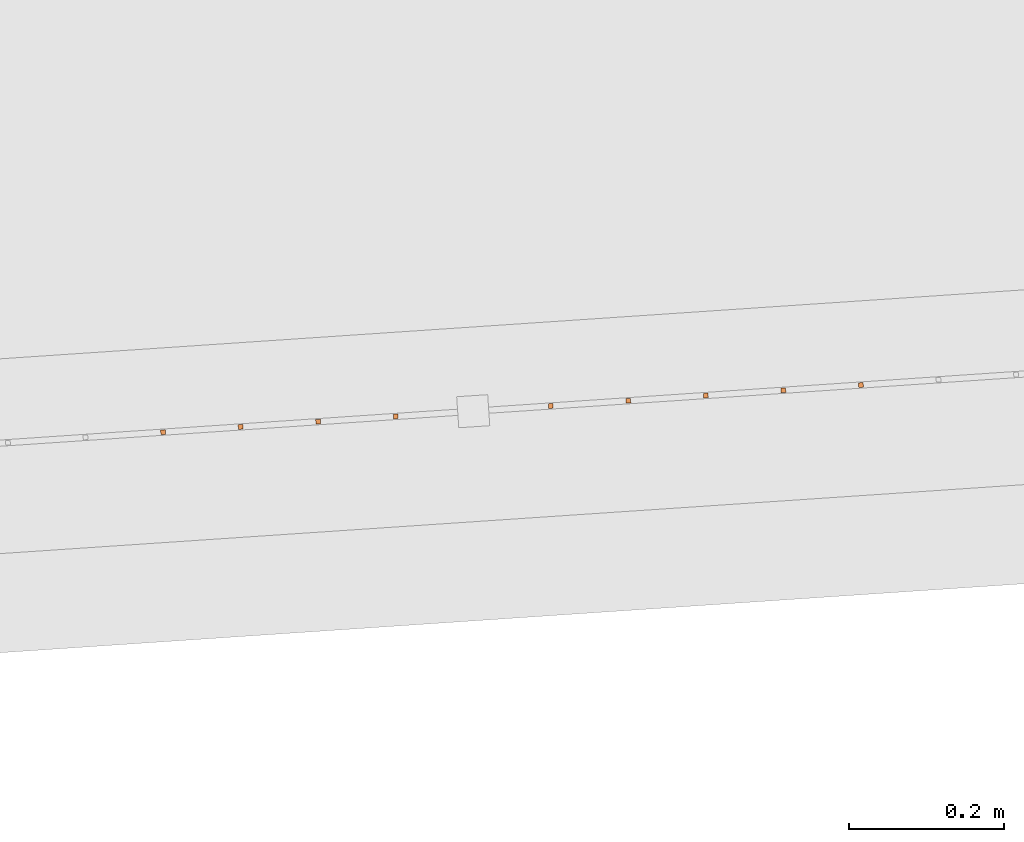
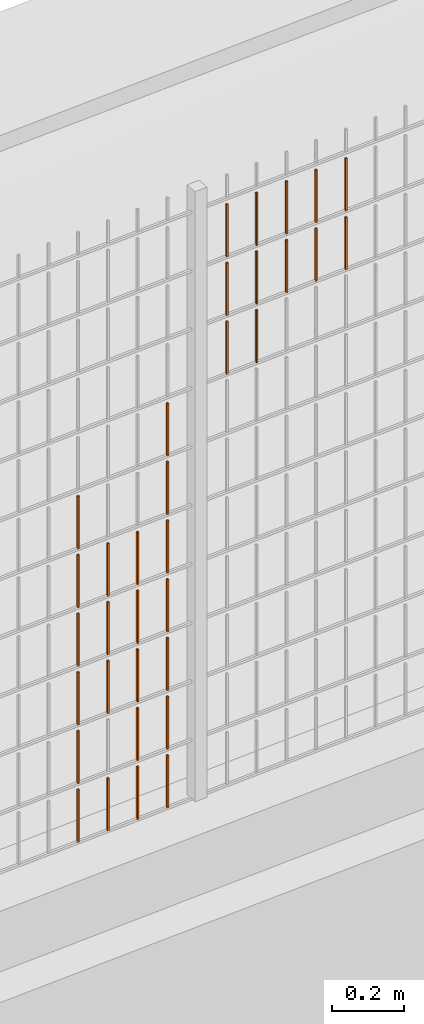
# One storey, part 284 of 1809: 34 proxies, 1 element without a shape of its own.
"""IFC2X3 building model written with IfcOpenShell, lengths in millimetres."""

from ifc_helpers import new_model, entity, si_unit, converted_unit, derived_unit, money_unit, direction, frame, origin_with_axes, place, context, subcontext, project, spatial, faceted_brep, source, transform, mapped, material, type_object, element, aggregate, save


model = new_model("IFC2X3")

# Units and contexts
model_context = context("Model", 3, precision=0.01, world=origin_with_axes(), true_north=direction((0.0, 1.0)))
body_context = subcontext(model_context, "Body", "Model", "MODEL_VIEW")
ifc_project = project(units=[si_unit("LENGTHUNIT", "METRE", prefix="MILLI"), si_unit("AREAUNIT", "SQUARE_METRE"), si_unit("VOLUMEUNIT", "CUBIC_METRE"), converted_unit("PLANEANGLEUNIT", "DEGREE", entity("IfcPlaneAngleMeasure", 0.0174532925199), si_unit("PLANEANGLEUNIT", "RADIAN"), dimensions=[0, 0, 0, 0, 0, 0, 0]), si_unit("SOLIDANGLEUNIT", "STERADIAN"), money_unit("EUR"), converted_unit("TIMEUNIT", "Year", entity("IfcTimeMeasure", 31556926.0), si_unit("TIMEUNIT", "SECOND"), dimensions=[0, 0, 1, 0, 0, 0, 0]), si_unit("MASSUNIT", "GRAM", prefix="KILO"), si_unit("THERMODYNAMICTEMPERATUREUNIT", "DEGREE_CELSIUS"), si_unit("LUMINOUSINTENSITYUNIT", "LUMEN"), si_unit("ENERGYUNIT", "JOULE", prefix="MEGA"), derived_unit("THERMALCONDUCTANCEUNIT", [(si_unit("POWERUNIT", "WATT"), 1), (si_unit("LENGTHUNIT", "METRE"), -1), (si_unit("THERMODYNAMICTEMPERATUREUNIT", "KELVIN"), -1)]), derived_unit("SPECIFICHEATCAPACITYUNIT", [(si_unit("ENERGYUNIT", "JOULE"), 1), (si_unit("MASSUNIT", "GRAM", prefix="KILO"), -1), (si_unit("THERMODYNAMICTEMPERATUREUNIT", "KELVIN"), -1)]), derived_unit("MASSDENSITYUNIT", [(si_unit("MASSUNIT", "GRAM", prefix="KILO"), 1), (si_unit("VOLUMEUNIT", "CUBIC_METRE"), -1)])], contexts=[model_context])

# Site, building, storey
site_placement = place(None, origin_with_axes())
site = spatial("IfcSite", under=ifc_project, at=site_placement, Name="Politse- ja Piirivalveameti ning Päästeameti ühishoone", CompositionType="ELEMENT")
building_placement = place(site_placement, origin_with_axes())
building = spatial("IfcBuilding", under=site, at=building_placement, Name="Politse- ja Piirivalveameti ning Päästeameti ühishoone", CompositionType="ELEMENT")
storey_placement = place(building_placement, origin_with_axes())
storey = spatial("IfcBuildingStorey", under=building, at=storey_placement, Name="Esimene korrus", CompositionType="ELEMENT", Elevation=0.0)

# Proxies
building_element_proxy_type_1 = type_object("IfcBuildingElementProxyType", Name="Railing Type", PredefinedType="NOTDEFINED")
proxy_1_placement = place(storey_placement, frame((89252.001212, -29183.4766571, 203.661247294), z_axis=(0.0, 0.0, 1.0), x_axis=(1.0, 0.0, 0.0)))
proxy_1 = element("IfcBuildingElementProxy", 1, at=proxy_1_placement, inside=storey, type_object=building_element_proxy_type_1, Name="PIIRDEAED")
ifc_material = material(Name="ET-03_Raud")
building_element_proxy_type_2 = type_object("IfcBuildingElementProxyType", Name="IfcBuildingElementProxy", PredefinedType="NOTDEFINED")
shared_shape_1 = source(origin_with_axes(), body_context, "Body", "Brep", [
    faceted_brep([(3.0, 3.0, -0.000752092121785), (-3.0, 3.0, -0.000752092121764), (-3.0, 3.0, 179.99926046), (3.0, 3.0, 179.99926046), (3.0, -3.0, 0.000752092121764), (-3.0, -3.0, 0.000752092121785), (-3.0, -3.0, 180.000764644), (3.0, -3.0, 180.000764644)], [[[0, 1, 2, 3]], [[0, 4, 5, 1]], [[1, 5, 6, 2]], [[3, 2, 6, 7]], [[4, 0, 3, 7]], [[5, 4, 7, 6]]]),
])
proxy_2_placement = place(proxy_1_placement, frame((-50012.7264599, -20675.9456927, 14.667756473), z_axis=(0.0, 0.0, 1.0), x_axis=(1.0, 0.0, 0.0)))
proxy_2 = element("IfcBuildingElementProxy", 2, at=proxy_2_placement, type_object=building_element_proxy_type_2, material=ifc_material, Name="BALUSTER - 001", context=body_context, shape_type="MappedRepresentation", body=[
    mapped(shared_shape_1, transform((0.0, 0.0, 0.0), x_axis=(-0.0673926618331, 0.997726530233, 0.0), y_axis=(-0.997726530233, -0.0673926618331, 0.0), z_axis=(0.0, 0.0, 1.0))),
])
shared_shape_2 = source(origin_with_axes(), body_context, "Body", "Brep", [
    faceted_brep([(3.0, 3.0, -0.000752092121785), (-3.0, 3.0, -0.000752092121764), (-3.0, 3.0, 179.99926046), (3.0, 3.0, 179.99926046), (3.0, -3.0, 0.000752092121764), (-3.0, -3.0, 0.000752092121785), (-3.0, -3.0, 180.000764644), (3.0, -3.0, 180.000764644)], [[[0, 1, 2, 3]], [[0, 4, 5, 1]], [[1, 5, 6, 2]], [[3, 2, 6, 7]], [[4, 0, 3, 7]], [[5, 4, 7, 6]]]),
])
proxy_3_placement = place(proxy_1_placement, frame((-50012.7264599, -20675.9456927, 614.667756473), z_axis=(0.0, 0.0, 1.0), x_axis=(1.0, 0.0, 0.0)))
proxy_3 = element("IfcBuildingElementProxy", 3, at=proxy_3_placement, type_object=building_element_proxy_type_2, material=ifc_material, Name="BALUSTER - 001", context=body_context, shape_type="MappedRepresentation", body=[
    mapped(shared_shape_2, transform((0.0, 0.0, 0.0), x_axis=(-0.0673926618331, 0.997726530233, 0.0), y_axis=(-0.997726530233, -0.0673926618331, 0.0), z_axis=(0.0, 0.0, 1.0))),
])
shared_shape_3 = source(origin_with_axes(), body_context, "Body", "Brep", [
    faceted_brep([(3.0, 3.0, -0.000752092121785), (-3.0, 3.0, -0.000752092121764), (-3.0, 3.0, 179.99926046), (3.0, 3.0, 179.99926046), (3.0, -3.0, 0.000752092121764), (-3.0, -3.0, 0.000752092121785), (-3.0, -3.0, 180.000764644), (3.0, -3.0, 180.000764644)], [[[0, 1, 2, 3]], [[0, 4, 5, 1]], [[1, 5, 6, 2]], [[3, 2, 6, 7]], [[4, 0, 3, 7]], [[5, 4, 7, 6]]]),
])
proxy_4_placement = place(proxy_1_placement, frame((-50012.7264599, -20675.9456927, 814.667756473), z_axis=(0.0, 0.0, 1.0), x_axis=(1.0, 0.0, 0.0)))
proxy_4 = element("IfcBuildingElementProxy", 4, at=proxy_4_placement, type_object=building_element_proxy_type_2, material=ifc_material, Name="BALUSTER - 001", context=body_context, shape_type="MappedRepresentation", body=[
    mapped(shared_shape_3, transform((0.0, 0.0, 0.0), x_axis=(-0.0673926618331, 0.997726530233, 0.0), y_axis=(-0.997726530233, -0.0673926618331, 0.0), z_axis=(0.0, 0.0, 1.0))),
])
shared_shape_4 = source(origin_with_axes(), body_context, "Body", "Brep", [
    faceted_brep([(3.0, 3.0, -0.000752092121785), (-3.0, 3.0, -0.000752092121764), (-3.0, 3.0, 179.99926046), (3.0, 3.0, 179.99926046), (3.0, -3.0, 0.000752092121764), (-3.0, -3.0, 0.000752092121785), (-3.0, -3.0, 180.000764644), (3.0, -3.0, 180.000764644)], [[[0, 1, 2, 3]], [[0, 4, 5, 1]], [[1, 5, 6, 2]], [[3, 2, 6, 7]], [[4, 0, 3, 7]], [[5, 4, 7, 6]]]),
])
proxy_5_placement = place(proxy_1_placement, frame((-50012.7264599, -20675.9456927, 414.667756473), z_axis=(0.0, 0.0, 1.0), x_axis=(1.0, 0.0, 0.0)))
proxy_5 = element("IfcBuildingElementProxy", 5, at=proxy_5_placement, type_object=building_element_proxy_type_2, material=ifc_material, Name="BALUSTER - 001", context=body_context, shape_type="MappedRepresentation", body=[
    mapped(shared_shape_4, transform((0.0, 0.0, 0.0), x_axis=(-0.0673926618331, 0.997726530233, 0.0), y_axis=(-0.997726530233, -0.0673926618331, 0.0), z_axis=(0.0, 0.0, 1.0))),
])
shared_shape_5 = source(origin_with_axes(), body_context, "Body", "Brep", [
    faceted_brep([(3.0, 3.0, -0.000752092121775), (-3.0, 3.0, -0.000752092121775), (-3.0, 3.0, 179.99926046), (3.0, 3.0, 179.99926046), (3.0, -3.0, 0.000752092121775), (-3.0, -3.0, 0.000752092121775), (-3.0, -3.0, 180.000764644), (3.0, -3.0, 180.000764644)], [[[0, 1, 2, 3]], [[0, 4, 5, 1]], [[1, 5, 6, 2]], [[3, 2, 6, 7]], [[4, 0, 3, 7]], [[5, 4, 7, 6]]]),
])
proxy_6_placement = place(proxy_1_placement, frame((-49613.6358478, -20648.988628, 1814.76803542), z_axis=(0.0, 0.0, 1.0), x_axis=(1.0, 0.0, 0.0)))
proxy_6 = element("IfcBuildingElementProxy", 6, at=proxy_6_placement, type_object=building_element_proxy_type_2, material=ifc_material, Name="BALUSTER - 001", context=body_context, shape_type="MappedRepresentation", body=[
    mapped(shared_shape_5, transform((0.0, 0.0, 0.0), x_axis=(-0.0673926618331, 0.997726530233, 0.0), y_axis=(-0.997726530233, -0.0673926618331, 0.0), z_axis=(0.0, 0.0, 1.0))),
])
shared_shape_6 = source(origin_with_axes(), body_context, "Body", "Brep", [
    faceted_brep([(3.0, 3.0, -0.000752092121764), (-3.0, 3.0, -0.000752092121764), (-3.0, 3.0, 179.99926046), (3.0, 3.0, 179.99926046), (3.0, -3.0, 0.000752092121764), (-3.0, -3.0, 0.000752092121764), (-3.0, -3.0, 180.000764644), (3.0, -3.0, 180.000764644)], [[[0, 1, 2, 3]], [[0, 4, 5, 1]], [[1, 5, 6, 2]], [[3, 2, 6, 7]], [[4, 0, 3, 7]], [[5, 4, 7, 6]]]),
])
proxy_7_placement = place(proxy_1_placement, frame((-49813.1811538, -20662.4671604, 814.717895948), z_axis=(0.0, 0.0, 1.0), x_axis=(1.0, 0.0, 0.0)))
proxy_7 = element("IfcBuildingElementProxy", 7, at=proxy_7_placement, type_object=building_element_proxy_type_2, material=ifc_material, Name="BALUSTER - 001", context=body_context, shape_type="MappedRepresentation", body=[
    mapped(shared_shape_6, transform((0.0, 0.0, 0.0), x_axis=(-0.0673926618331, 0.997726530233, 0.0), y_axis=(-0.997726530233, -0.0673926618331, 0.0), z_axis=(0.0, 0.0, 1.0))),
])
proxy_8_placement = place(proxy_1_placement, frame((-49912.9538068, -20669.2064266, 814.69282621), z_axis=(0.0, 0.0, 1.0), x_axis=(1.0, 0.0, 0.0)))
proxy_8 = element("IfcBuildingElementProxy", 8, at=proxy_8_placement, type_object=building_element_proxy_type_2, material=ifc_material, Name="BALUSTER - 001", context=body_context, shape_type="MappedRepresentation", body=[
    mapped(shared_shape_6, transform((0.0, 0.0, 0.0), x_axis=(-0.0673926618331, 0.997726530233, 0.0), y_axis=(-0.997726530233, -0.0673926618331, 0.0), z_axis=(0.0, 0.0, 1.0))),
])
proxy_9_placement = place(proxy_1_placement, frame((-49813.1811538, -20662.4671604, 1214.71789595), z_axis=(0.0, 0.0, 1.0), x_axis=(1.0, 0.0, 0.0)))
proxy_9 = element("IfcBuildingElementProxy", 9, at=proxy_9_placement, type_object=building_element_proxy_type_2, material=ifc_material, Name="BALUSTER - 001", context=body_context, shape_type="MappedRepresentation", body=[
    mapped(shared_shape_6, transform((0.0, 0.0, 0.0), x_axis=(-0.0673926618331, 0.997726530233, 0.0), y_axis=(-0.997726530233, -0.0673926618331, 0.0), z_axis=(0.0, 0.0, 1.0))),
])
shared_shape_7 = source(origin_with_axes(), body_context, "Body", "Brep", [
    faceted_brep([(3.0, 3.0, -0.000752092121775), (-3.0, 3.0, -0.000752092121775), (-3.0, 3.0, 179.99926046), (3.0, 3.0, 179.99926046), (3.0, -3.0, 0.000752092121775), (-3.0, -3.0, 0.000752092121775), (-3.0, -3.0, 180.000764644), (3.0, -3.0, 180.000764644)], [[[0, 1, 2, 3]], [[0, 4, 5, 1]], [[1, 5, 6, 2]], [[3, 2, 6, 7]], [[4, 0, 3, 7]], [[5, 4, 7, 6]]]),
])
proxy_10_placement = place(proxy_1_placement, frame((-49613.6358478, -20648.988628, 1414.76803542), z_axis=(0.0, 0.0, 1.0), x_axis=(1.0, 0.0, 0.0)))
proxy_10 = element("IfcBuildingElementProxy", 10, at=proxy_10_placement, type_object=building_element_proxy_type_2, material=ifc_material, Name="BALUSTER - 001", context=body_context, shape_type="MappedRepresentation", body=[
    mapped(shared_shape_7, transform((0.0, 0.0, 0.0), x_axis=(-0.0673926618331, 0.997726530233, 0.0), y_axis=(-0.997726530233, -0.0673926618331, 0.0), z_axis=(0.0, 0.0, 1.0))),
])
proxy_11_placement = place(proxy_1_placement, frame((-49613.6358478, -20648.988628, 1614.76803542), z_axis=(0.0, 0.0, 1.0), x_axis=(1.0, 0.0, 0.0)))
proxy_11 = element("IfcBuildingElementProxy", 11, at=proxy_11_placement, type_object=building_element_proxy_type_2, material=ifc_material, Name="BALUSTER - 001", context=body_context, shape_type="MappedRepresentation", body=[
    mapped(shared_shape_7, transform((0.0, 0.0, 0.0), x_axis=(-0.0673926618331, 0.997726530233, 0.0), y_axis=(-0.997726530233, -0.0673926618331, 0.0), z_axis=(0.0, 0.0, 1.0))),
])
shared_shape_8 = source(origin_with_axes(), body_context, "Body", "Brep", [
    faceted_brep([(3.0, 3.0, -0.000752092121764), (-3.0, 3.0, -0.000752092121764), (-3.0, 3.0, 179.99926046), (3.0, 3.0, 179.99926046), (3.0, -3.0, 0.000752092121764), (-3.0, -3.0, 0.000752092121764), (-3.0, -3.0, 180.000764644), (3.0, -3.0, 180.000764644)], [[[0, 1, 2, 3]], [[0, 4, 5, 1]], [[1, 5, 6, 2]], [[3, 2, 6, 7]], [[4, 0, 3, 7]], [[5, 4, 7, 6]]]),
])
proxy_12_placement = place(proxy_1_placement, frame((-49813.1811538, -20662.4671604, 614.717895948), z_axis=(0.0, 0.0, 1.0), x_axis=(1.0, 0.0, 0.0)))
proxy_12 = element("IfcBuildingElementProxy", 12, at=proxy_12_placement, type_object=building_element_proxy_type_2, material=ifc_material, Name="BALUSTER - 001", context=body_context, shape_type="MappedRepresentation", body=[
    mapped(shared_shape_8, transform((0.0, 0.0, 0.0), x_axis=(-0.0673926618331, 0.997726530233, 0.0), y_axis=(-0.997726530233, -0.0673926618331, 0.0), z_axis=(0.0, 0.0, 1.0))),
])
shared_shape_9 = source(origin_with_axes(), body_context, "Body", "Brep", [
    faceted_brep([(3.0, 3.0, -0.000752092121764), (-3.0, 3.0, -0.000752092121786), (-3.0, 3.0, 179.99926046), (3.0, 3.0, 179.99926046), (3.0, -3.0, 0.000752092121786), (-3.0, -3.0, 0.000752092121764), (-3.0, -3.0, 180.000764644), (3.0, -3.0, 180.000764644)], [[[0, 1, 2, 3]], [[0, 4, 5, 1]], [[1, 5, 6, 2]], [[3, 2, 6, 7]], [[4, 0, 3, 7]], [[5, 4, 7, 6]]]),
])
proxy_13_placement = place(proxy_1_placement, frame((-50112.4991129, -20682.6849589, 414.642686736), z_axis=(0.0, 0.0, 1.0), x_axis=(1.0, 0.0, 0.0)))
proxy_13 = element("IfcBuildingElementProxy", 13, at=proxy_13_placement, type_object=building_element_proxy_type_2, material=ifc_material, Name="BALUSTER - 001", context=body_context, shape_type="MappedRepresentation", body=[
    mapped(shared_shape_9, transform((0.0, 0.0, 0.0), x_axis=(-0.0673926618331, 0.997726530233, 0.0), y_axis=(-0.997726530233, -0.0673926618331, 0.0), z_axis=(0.0, 0.0, 1.0))),
])
shared_shape_10 = source(origin_with_axes(), body_context, "Body", "Brep", [
    faceted_brep([(3.0, 3.0, -0.000752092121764), (-3.0, 3.0, -0.000752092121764), (-3.0, 3.0, 179.99926046), (3.0, 3.0, 179.99926046), (3.0, -3.0, 0.000752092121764), (-3.0, -3.0, 0.000752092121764), (-3.0, -3.0, 180.000764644), (3.0, -3.0, 180.000764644)], [[[0, 1, 2, 3]], [[0, 4, 5, 1]], [[1, 5, 6, 2]], [[3, 2, 6, 7]], [[4, 0, 3, 7]], [[5, 4, 7, 6]]]),
])
proxy_14_placement = place(proxy_1_placement, frame((-49912.9538068, -20669.2064266, 214.69282621), z_axis=(0.0, 0.0, 1.0), x_axis=(1.0, 0.0, 0.0)))
proxy_14 = element("IfcBuildingElementProxy", 14, at=proxy_14_placement, type_object=building_element_proxy_type_2, material=ifc_material, Name="BALUSTER - 001", context=body_context, shape_type="MappedRepresentation", body=[
    mapped(shared_shape_10, transform((0.0, 0.0, 0.0), x_axis=(-0.0673926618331, 0.997726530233, 0.0), y_axis=(-0.997726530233, -0.0673926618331, 0.0), z_axis=(0.0, 0.0, 1.0))),
])
proxy_15_placement = place(proxy_1_placement, frame((-49813.1811538, -20662.4671604, 414.717895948), z_axis=(0.0, 0.0, 1.0), x_axis=(1.0, 0.0, 0.0)))
proxy_15 = element("IfcBuildingElementProxy", 15, at=proxy_15_placement, type_object=building_element_proxy_type_2, material=ifc_material, Name="BALUSTER - 001", context=body_context, shape_type="MappedRepresentation", body=[
    mapped(shared_shape_10, transform((0.0, 0.0, 0.0), x_axis=(-0.0673926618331, 0.997726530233, 0.0), y_axis=(-0.997726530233, -0.0673926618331, 0.0), z_axis=(0.0, 0.0, 1.0))),
])
proxy_16_placement = place(proxy_1_placement, frame((-49912.9538068, -20669.2064266, 414.69282621), z_axis=(0.0, 0.0, 1.0), x_axis=(1.0, 0.0, 0.0)))
proxy_16 = element("IfcBuildingElementProxy", 16, at=proxy_16_placement, type_object=building_element_proxy_type_2, material=ifc_material, Name="BALUSTER - 001", context=body_context, shape_type="MappedRepresentation", body=[
    mapped(shared_shape_10, transform((0.0, 0.0, 0.0), x_axis=(-0.0673926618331, 0.997726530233, 0.0), y_axis=(-0.997726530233, -0.0673926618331, 0.0), z_axis=(0.0, 0.0, 1.0))),
])
proxy_17_placement = place(proxy_1_placement, frame((-49912.9538068, -20669.2064266, 614.69282621), z_axis=(0.0, 0.0, 1.0), x_axis=(1.0, 0.0, 0.0)))
proxy_17 = element("IfcBuildingElementProxy", 17, at=proxy_17_placement, type_object=building_element_proxy_type_2, material=ifc_material, Name="BALUSTER - 001", context=body_context, shape_type="MappedRepresentation", body=[
    mapped(shared_shape_10, transform((0.0, 0.0, 0.0), x_axis=(-0.0673926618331, 0.997726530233, 0.0), y_axis=(-0.997726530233, -0.0673926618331, 0.0), z_axis=(0.0, 0.0, 1.0))),
])
shared_shape_11 = source(origin_with_axes(), body_context, "Body", "Brep", [
    faceted_brep([(3.0, 3.0, -0.000752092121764), (-3.0, 3.0, -0.000752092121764), (-3.0, 3.0, 179.99926046), (3.0, 3.0, 179.99926046), (3.0, -3.0, 0.000752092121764), (-3.0, -3.0, 0.000752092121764), (-3.0, -3.0, 180.000764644), (3.0, -3.0, 180.000764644)], [[[0, 1, 2, 3]], [[0, 4, 5, 1]], [[1, 5, 6, 2]], [[3, 2, 6, 7]], [[4, 0, 3, 7]], [[5, 4, 7, 6]]]),
])
proxy_18_placement = place(proxy_1_placement, frame((-49414.0905417, -20635.5100956, 1814.8181749), z_axis=(0.0, 0.0, 1.0), x_axis=(1.0, 0.0, 0.0)))
proxy_18 = element("IfcBuildingElementProxy", 18, at=proxy_18_placement, type_object=building_element_proxy_type_2, material=ifc_material, Name="BALUSTER - 001", context=body_context, shape_type="MappedRepresentation", body=[
    mapped(shared_shape_11, transform((0.0, 0.0, 0.0), x_axis=(-0.0673926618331, 0.997726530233, 0.0), y_axis=(-0.997726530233, -0.0673926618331, 0.0), z_axis=(0.0, 0.0, 1.0))),
])
shared_shape_12 = source(origin_with_axes(), body_context, "Body", "Brep", [
    faceted_brep([(3.0, 3.0, -0.000752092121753), (-3.0, 3.0, -0.000752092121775), (-3.0, 3.0, 179.99926046), (3.0, 3.0, 179.99926046), (3.0, -3.0, 0.000752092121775), (-3.0, -3.0, 0.000752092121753), (-3.0, -3.0, 180.000764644), (3.0, -3.0, 180.000764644)], [[[0, 1, 2, 3]], [[0, 4, 5, 1]], [[1, 5, 6, 2]], [[3, 2, 6, 7]], [[4, 0, 3, 7]], [[5, 4, 7, 6]]]),
])
proxy_19_placement = place(proxy_1_placement, frame((-49314.3178887, -20628.7708295, 1814.84324463), z_axis=(0.0, 0.0, 1.0), x_axis=(1.0, 0.0, 0.0)))
proxy_19 = element("IfcBuildingElementProxy", 19, at=proxy_19_placement, type_object=building_element_proxy_type_2, material=ifc_material, Name="BALUSTER - 001", context=body_context, shape_type="MappedRepresentation", body=[
    mapped(shared_shape_12, transform((0.0, 0.0, 0.0), x_axis=(-0.0673926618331, 0.997726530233, 0.0), y_axis=(-0.997726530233, -0.0673926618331, 0.0), z_axis=(0.0, 0.0, 1.0))),
])
shared_shape_13 = source(origin_with_axes(), body_context, "Body", "Brep", [
    faceted_brep([(3.0, 3.0, -0.000752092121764), (-3.0, 3.0, -0.000752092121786), (-3.0, 3.0, 179.99926046), (3.0, 3.0, 179.99926046), (3.0, -3.0, 0.000752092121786), (-3.0, -3.0, 0.000752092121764), (-3.0, -3.0, 180.000764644), (3.0, -3.0, 180.000764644)], [[[0, 1, 2, 3]], [[0, 4, 5, 1]], [[1, 5, 6, 2]], [[3, 2, 6, 7]], [[4, 0, 3, 7]], [[5, 4, 7, 6]]]),
])
proxy_20_placement = place(proxy_1_placement, frame((-50112.4991129, -20682.6849589, 814.642686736), z_axis=(0.0, 0.0, 1.0), x_axis=(1.0, 0.0, 0.0)))
proxy_20 = element("IfcBuildingElementProxy", 20, at=proxy_20_placement, type_object=building_element_proxy_type_2, material=ifc_material, Name="BALUSTER - 001", context=body_context, shape_type="MappedRepresentation", body=[
    mapped(shared_shape_13, transform((0.0, 0.0, 0.0), x_axis=(-0.0673926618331, 0.997726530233, 0.0), y_axis=(-0.997726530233, -0.0673926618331, 0.0), z_axis=(0.0, 0.0, 1.0))),
])
shared_shape_14 = source(origin_with_axes(), body_context, "Body", "Brep", [
    faceted_brep([(3.0, 3.0, -0.000752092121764), (-3.0, 3.0, -0.000752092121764), (-3.0, 3.0, 179.99926046), (3.0, 3.0, 179.99926046), (3.0, -3.0, 0.000752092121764), (-3.0, -3.0, 0.000752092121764), (-3.0, -3.0, 180.000764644), (3.0, -3.0, 180.000764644)], [[[0, 1, 2, 3]], [[0, 4, 5, 1]], [[1, 5, 6, 2]], [[3, 2, 6, 7]], [[4, 0, 3, 7]], [[5, 4, 7, 6]]]),
])
proxy_21_placement = place(proxy_1_placement, frame((-49813.1811538, -20662.4671604, 14.7178959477), z_axis=(0.0, 0.0, 1.0), x_axis=(1.0, 0.0, 0.0)))
proxy_21 = element("IfcBuildingElementProxy", 21, at=proxy_21_placement, type_object=building_element_proxy_type_2, material=ifc_material, Name="BALUSTER - 001", context=body_context, shape_type="MappedRepresentation", body=[
    mapped(shared_shape_14, transform((0.0, 0.0, 0.0), x_axis=(-0.0673926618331, 0.997726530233, 0.0), y_axis=(-0.997726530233, -0.0673926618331, 0.0), z_axis=(0.0, 0.0, 1.0))),
])
shared_shape_15 = source(origin_with_axes(), body_context, "Body", "Brep", [
    faceted_brep([(3.0, 3.0, -0.000752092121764), (-3.0, 3.0, -0.000752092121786), (-3.0, 3.0, 179.99926046), (3.0, 3.0, 179.99926046), (3.0, -3.0, 0.000752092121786), (-3.0, -3.0, 0.000752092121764), (-3.0, -3.0, 180.000764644), (3.0, -3.0, 180.000764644)], [[[0, 1, 2, 3]], [[0, 4, 5, 1]], [[1, 5, 6, 2]], [[3, 2, 6, 7]], [[4, 0, 3, 7]], [[5, 4, 7, 6]]]),
])
proxy_22_placement = place(proxy_1_placement, frame((-50112.4991129, -20682.6849589, 14.6426867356), z_axis=(0.0, 0.0, 1.0), x_axis=(1.0, 0.0, 0.0)))
proxy_22 = element("IfcBuildingElementProxy", 22, at=proxy_22_placement, type_object=building_element_proxy_type_2, material=ifc_material, Name="BALUSTER - 001", context=body_context, shape_type="MappedRepresentation", body=[
    mapped(shared_shape_15, transform((0.0, 0.0, 0.0), x_axis=(-0.0673926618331, 0.997726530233, 0.0), y_axis=(-0.997726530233, -0.0673926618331, 0.0), z_axis=(0.0, 0.0, 1.0))),
])
shared_shape_16 = source(origin_with_axes(), body_context, "Body", "Brep", [
    faceted_brep([(3.0, 3.0, -0.000752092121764), (-3.0, 3.0, -0.000752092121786), (-3.0, 3.0, 179.99926046), (3.0, 3.0, 179.99926046), (3.0, -3.0, 0.000752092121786), (-3.0, -3.0, 0.000752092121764), (-3.0, -3.0, 180.000764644), (3.0, -3.0, 180.000764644)], [[[0, 1, 2, 3]], [[0, 4, 5, 1]], [[1, 5, 6, 2]], [[3, 2, 6, 7]], [[4, 0, 3, 7]], [[5, 4, 7, 6]]]),
])
proxy_23_placement = place(proxy_1_placement, frame((-50112.4991129, -20682.6849589, 614.642686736), z_axis=(0.0, 0.0, 1.0), x_axis=(1.0, 0.0, 0.0)))
proxy_23 = element("IfcBuildingElementProxy", 23, at=proxy_23_placement, type_object=building_element_proxy_type_2, material=ifc_material, Name="BALUSTER - 001", context=body_context, shape_type="MappedRepresentation", body=[
    mapped(shared_shape_16, transform((0.0, 0.0, 0.0), x_axis=(-0.0673926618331, 0.997726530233, 0.0), y_axis=(-0.997726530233, -0.0673926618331, 0.0), z_axis=(0.0, 0.0, 1.0))),
])
shared_shape_17 = source(origin_with_axes(), body_context, "Body", "Brep", [
    faceted_brep([(3.0, 3.0, -0.000752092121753), (-3.0, 3.0, -0.000752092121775), (-3.0, 3.0, 179.99926046), (3.0, 3.0, 179.99926046), (3.0, -3.0, 0.000752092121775), (-3.0, -3.0, 0.000752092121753), (-3.0, -3.0, 180.000764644), (3.0, -3.0, 180.000764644)], [[[0, 1, 2, 3]], [[0, 4, 5, 1]], [[1, 5, 6, 2]], [[3, 2, 6, 7]], [[4, 0, 3, 7]], [[5, 4, 7, 6]]]),
])
proxy_24_placement = place(proxy_1_placement, frame((-49513.8631947, -20642.2493618, 1814.79310516), z_axis=(0.0, 0.0, 1.0), x_axis=(1.0, 0.0, 0.0)))
proxy_24 = element("IfcBuildingElementProxy", 24, at=proxy_24_placement, type_object=building_element_proxy_type_2, material=ifc_material, Name="BALUSTER - 001", context=body_context, shape_type="MappedRepresentation", body=[
    mapped(shared_shape_17, transform((0.0, 0.0, 0.0), x_axis=(-0.0673926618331, 0.997726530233, 0.0), y_axis=(-0.997726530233, -0.0673926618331, 0.0), z_axis=(0.0, 0.0, 1.0))),
])
shared_shape_18 = source(origin_with_axes(), body_context, "Body", "Brep", [
    faceted_brep([(3.0, 3.0, -0.000752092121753), (-3.0, 3.0, -0.000752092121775), (-3.0, 3.0, 179.99926046), (3.0, 3.0, 179.99926046), (3.0, -3.0, 0.000752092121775), (-3.0, -3.0, 0.000752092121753), (-3.0, -3.0, 180.000764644), (3.0, -3.0, 180.000764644)], [[[0, 1, 2, 3]], [[0, 4, 5, 1]], [[1, 5, 6, 2]], [[3, 2, 6, 7]], [[4, 0, 3, 7]], [[5, 4, 7, 6]]]),
])
proxy_25_placement = place(proxy_1_placement, frame((-49513.8631947, -20642.2493618, 1414.79310516), z_axis=(0.0, 0.0, 1.0), x_axis=(1.0, 0.0, 0.0)))
proxy_25 = element("IfcBuildingElementProxy", 25, at=proxy_25_placement, type_object=building_element_proxy_type_2, material=ifc_material, Name="BALUSTER - 001", context=body_context, shape_type="MappedRepresentation", body=[
    mapped(shared_shape_18, transform((0.0, 0.0, 0.0), x_axis=(-0.0673926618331, 0.997726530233, 0.0), y_axis=(-0.997726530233, -0.0673926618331, 0.0), z_axis=(0.0, 0.0, 1.0))),
])
proxy_26_placement = place(proxy_1_placement, frame((-49513.8631947, -20642.2493618, 1614.79310516), z_axis=(0.0, 0.0, 1.0), x_axis=(1.0, 0.0, 0.0)))
proxy_26 = element("IfcBuildingElementProxy", 26, at=proxy_26_placement, type_object=building_element_proxy_type_2, material=ifc_material, Name="BALUSTER - 001", context=body_context, shape_type="MappedRepresentation", body=[
    mapped(shared_shape_18, transform((0.0, 0.0, 0.0), x_axis=(-0.0673926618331, 0.997726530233, 0.0), y_axis=(-0.997726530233, -0.0673926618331, 0.0), z_axis=(0.0, 0.0, 1.0))),
])
shared_shape_19 = source(origin_with_axes(), body_context, "Body", "Brep", [
    faceted_brep([(3.0, 3.0, -0.000752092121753), (-3.0, 3.0, -0.000752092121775), (-3.0, 3.0, 179.99926046), (3.0, 3.0, 179.99926046), (3.0, -3.0, 0.000752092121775), (-3.0, -3.0, 0.000752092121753), (-3.0, -3.0, 180.000764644), (3.0, -3.0, 180.000764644)], [[[0, 1, 2, 3]], [[0, 4, 5, 1]], [[1, 5, 6, 2]], [[3, 2, 6, 7]], [[4, 0, 3, 7]], [[5, 4, 7, 6]]]),
])
proxy_27_placement = place(proxy_1_placement, frame((-49314.3178887, -20628.7708295, 1614.84324463), z_axis=(0.0, 0.0, 1.0), x_axis=(1.0, 0.0, 0.0)))
proxy_27 = element("IfcBuildingElementProxy", 27, at=proxy_27_placement, type_object=building_element_proxy_type_2, material=ifc_material, Name="BALUSTER - 001", context=body_context, shape_type="MappedRepresentation", body=[
    mapped(shared_shape_19, transform((0.0, 0.0, 0.0), x_axis=(-0.0673926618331, 0.997726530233, 0.0), y_axis=(-0.997726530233, -0.0673926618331, 0.0), z_axis=(0.0, 0.0, 1.0))),
])
shared_shape_20 = source(origin_with_axes(), body_context, "Body", "Brep", [
    faceted_brep([(3.0, 3.0, -0.000752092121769), (-3.0, 3.0, -0.00075209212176), (-3.00000000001, 3.0, 179.99926046), (2.99999999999, 3.0, 179.99926046), (3.0, -3.0, 0.00075209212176), (-3.0, -3.0, 0.000752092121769), (-3.00000000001, -3.0, 180.000764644), (2.99999999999, -3.0, 180.000764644)], [[[0, 1, 2, 3]], [[0, 4, 5, 1]], [[1, 5, 6, 2]], [[3, 2, 6, 7]], [[4, 0, 3, 7]], [[5, 4, 7, 6]]]),
])
proxy_28_placement = place(proxy_1_placement, frame((-49813.1811538, -20662.4671604, 1014.71789595), z_axis=(0.0, 0.0, 1.0), x_axis=(1.0, 0.0, 0.0)))
proxy_28 = element("IfcBuildingElementProxy", 28, at=proxy_28_placement, type_object=building_element_proxy_type_2, material=ifc_material, Name="BALUSTER - 001", context=body_context, shape_type="MappedRepresentation", body=[
    mapped(shared_shape_20, transform((0.0, 0.0, 0.0), x_axis=(-0.0673926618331, 0.997726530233, 0.0), y_axis=(-0.997726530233, -0.0673926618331, 0.0), z_axis=(0.0, 0.0, 1.0))),
])
shared_shape_21 = source(origin_with_axes(), body_context, "Body", "Brep", [
    faceted_brep([(3.0, 3.0, -0.000752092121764), (-3.0, 3.0, -0.000752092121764), (-3.0, 3.0, 179.99926046), (3.0, 3.0, 179.99926046), (3.0, -3.0, 0.000752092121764), (-3.0, -3.0, 0.000752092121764), (-3.0, -3.0, 180.000764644), (3.0, -3.0, 180.000764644)], [[[0, 1, 2, 3]], [[0, 4, 5, 1]], [[1, 5, 6, 2]], [[3, 2, 6, 7]], [[4, 0, 3, 7]], [[5, 4, 7, 6]]]),
])
proxy_29_placement = place(proxy_1_placement, frame((-49813.1811538, -20662.4671604, 214.717895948), z_axis=(0.0, 0.0, 1.0), x_axis=(1.0, 0.0, 0.0)))
proxy_29 = element("IfcBuildingElementProxy", 29, at=proxy_29_placement, type_object=building_element_proxy_type_2, material=ifc_material, Name="BALUSTER - 001", context=body_context, shape_type="MappedRepresentation", body=[
    mapped(shared_shape_21, transform((0.0, 0.0, 0.0), x_axis=(-0.0673926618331, 0.997726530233, 0.0), y_axis=(-0.997726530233, -0.0673926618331, 0.0), z_axis=(0.0, 0.0, 1.0))),
])
shared_shape_22 = source(origin_with_axes(), body_context, "Body", "Brep", [
    faceted_brep([(3.0, 3.0, -0.000752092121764), (-3.0, 3.0, -0.000752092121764), (-3.0, 3.0, 179.99926046), (3.0, 3.0, 179.99926046), (3.0, -3.0, 0.000752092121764), (-3.0, -3.0, 0.000752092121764), (-3.0, -3.0, 180.000764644), (3.0, -3.0, 180.000764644)], [[[0, 1, 2, 3]], [[0, 4, 5, 1]], [[1, 5, 6, 2]], [[3, 2, 6, 7]], [[4, 0, 3, 7]], [[5, 4, 7, 6]]]),
])
proxy_30_placement = place(proxy_1_placement, frame((-49912.9538068, -20669.2064266, 14.6928262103), z_axis=(0.0, 0.0, 1.0), x_axis=(1.0, 0.0, 0.0)))
proxy_30 = element("IfcBuildingElementProxy", 30, at=proxy_30_placement, type_object=building_element_proxy_type_2, material=ifc_material, Name="BALUSTER - 001", context=body_context, shape_type="MappedRepresentation", body=[
    mapped(shared_shape_22, transform((0.0, 0.0, 0.0), x_axis=(-0.0673926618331, 0.997726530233, 0.0), y_axis=(-0.997726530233, -0.0673926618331, 0.0), z_axis=(0.0, 0.0, 1.0))),
])
shared_shape_23 = source(origin_with_axes(), body_context, "Body", "Brep", [
    faceted_brep([(3.0, 3.0, -0.000752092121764), (-3.0, 3.0, -0.000752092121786), (-3.0, 3.0, 179.99926046), (3.0, 3.0, 179.99926046), (3.0, -3.0, 0.000752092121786), (-3.0, -3.0, 0.000752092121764), (-3.0, -3.0, 180.000764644), (3.0, -3.0, 180.000764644)], [[[0, 1, 2, 3]], [[0, 4, 5, 1]], [[1, 5, 6, 2]], [[3, 2, 6, 7]], [[4, 0, 3, 7]], [[5, 4, 7, 6]]]),
])
proxy_31_placement = place(proxy_1_placement, frame((-50112.4991129, -20682.6849589, 214.642686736), z_axis=(0.0, 0.0, 1.0), x_axis=(1.0, 0.0, 0.0)))
proxy_31 = element("IfcBuildingElementProxy", 31, at=proxy_31_placement, type_object=building_element_proxy_type_2, material=ifc_material, Name="BALUSTER - 001", context=body_context, shape_type="MappedRepresentation", body=[
    mapped(shared_shape_23, transform((0.0, 0.0, 0.0), x_axis=(-0.0673926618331, 0.997726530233, 0.0), y_axis=(-0.997726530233, -0.0673926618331, 0.0), z_axis=(0.0, 0.0, 1.0))),
])
shared_shape_24 = source(origin_with_axes(), body_context, "Body", "Brep", [
    faceted_brep([(3.0, 3.0, -0.000752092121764), (-3.0, 3.0, -0.000752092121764), (-3.0, 3.0, 179.99926046), (3.0, 3.0, 179.99926046), (3.0, -3.0, 0.000752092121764), (-3.0, -3.0, 0.000752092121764), (-3.0, -3.0, 180.000764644), (3.0, -3.0, 180.000764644)], [[[0, 1, 2, 3]], [[0, 4, 5, 1]], [[1, 5, 6, 2]], [[3, 2, 6, 7]], [[4, 0, 3, 7]], [[5, 4, 7, 6]]]),
])
proxy_32_placement = place(proxy_1_placement, frame((-49414.0905417, -20635.5100956, 1614.8181749), z_axis=(0.0, 0.0, 1.0), x_axis=(1.0, 0.0, 0.0)))
proxy_32 = element("IfcBuildingElementProxy", 32, at=proxy_32_placement, type_object=building_element_proxy_type_2, material=ifc_material, Name="BALUSTER - 001", context=body_context, shape_type="MappedRepresentation", body=[
    mapped(shared_shape_24, transform((0.0, 0.0, 0.0), x_axis=(-0.0673926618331, 0.997726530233, 0.0), y_axis=(-0.997726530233, -0.0673926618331, 0.0), z_axis=(0.0, 0.0, 1.0))),
])
shared_shape_25 = source(origin_with_axes(), body_context, "Body", "Brep", [
    faceted_brep([(3.0, 3.0, -0.000752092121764), (-3.0, 3.0, -0.000752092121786), (-3.0, 3.0, 179.99926046), (3.0, 3.0, 179.99926046), (3.0, -3.0, 0.000752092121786), (-3.0, -3.0, 0.000752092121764), (-3.0, -3.0, 180.000764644), (3.0, -3.0, 180.000764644)], [[[0, 1, 2, 3]], [[0, 4, 5, 1]], [[1, 5, 6, 2]], [[3, 2, 6, 7]], [[4, 0, 3, 7]], [[5, 4, 7, 6]]]),
])
proxy_33_placement = place(proxy_1_placement, frame((-49214.5452357, -20622.0315633, 1614.86831437), z_axis=(0.0, 0.0, 1.0), x_axis=(1.0, 0.0, 0.0)))
proxy_33 = element("IfcBuildingElementProxy", 33, at=proxy_33_placement, type_object=building_element_proxy_type_2, material=ifc_material, Name="BALUSTER - 001", context=body_context, shape_type="MappedRepresentation", body=[
    mapped(shared_shape_25, transform((0.0, 0.0, 0.0), x_axis=(-0.0673926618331, 0.997726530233, 0.0), y_axis=(-0.997726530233, -0.0673926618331, 0.0), z_axis=(0.0, 0.0, 1.0))),
])
shared_shape_26 = source(origin_with_axes(), body_context, "Body", "Brep", [
    faceted_brep([(3.0, 3.0, -0.000752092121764), (-3.0, 3.0, -0.000752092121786), (-3.0, 3.0, 179.99926046), (3.0, 3.0, 179.99926046), (3.0, -3.0, 0.000752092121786), (-3.0, -3.0, 0.000752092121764), (-3.0, -3.0, 180.000764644), (3.0, -3.0, 180.000764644)], [[[0, 1, 2, 3]], [[0, 4, 5, 1]], [[1, 5, 6, 2]], [[3, 2, 6, 7]], [[4, 0, 3, 7]], [[5, 4, 7, 6]]]),
])
proxy_34_placement = place(proxy_1_placement, frame((-49214.5452357, -20622.0315633, 1814.86831437), z_axis=(0.0, 0.0, 1.0), x_axis=(1.0, 0.0, 0.0)))
proxy_34 = element("IfcBuildingElementProxy", 34, at=proxy_34_placement, type_object=building_element_proxy_type_2, material=ifc_material, Name="BALUSTER - 001", context=body_context, shape_type="MappedRepresentation", body=[
    mapped(shared_shape_26, transform((0.0, 0.0, 0.0), x_axis=(-0.0673926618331, 0.997726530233, 0.0), y_axis=(-0.997726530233, -0.0673926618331, 0.0), z_axis=(0.0, 0.0, 1.0))),
])
shared_shape_27 = source(origin_with_axes(), body_context, "Body", "Brep", [
    faceted_brep([(3.0, 3.0, -0.000752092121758), (-3.0, 3.0, -0.00075209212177), (-3.00000000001, 3.0, 179.99926046), (2.99999999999, 3.0, 179.99926046), (3.0, -3.0, 0.00075209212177), (-3.0, -3.0, 0.000752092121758), (-3.00000000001, -3.0, 180.000764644), (2.99999999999, -3.0, 180.000764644)], [[[0, 1, 2, 3]], [[0, 4, 5, 1]], [[1, 5, 6, 2]], [[3, 2, 6, 7]], [[4, 0, 3, 7]], [[5, 4, 7, 6]]]),
])
proxy_35_placement = place(proxy_1_placement, frame((-50112.4991129, -20682.6849589, 1014.64268674), z_axis=(0.0, 0.0, 1.0), x_axis=(1.0, 0.0, 0.0)))
proxy_35 = element("IfcBuildingElementProxy", 35, at=proxy_35_placement, type_object=building_element_proxy_type_2, material=ifc_material, Name="BALUSTER - 001", context=body_context, shape_type="MappedRepresentation", body=[
    mapped(shared_shape_27, transform((0.0, 0.0, 0.0), x_axis=(-0.0673926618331, 0.997726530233, 0.0), y_axis=(-0.997726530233, -0.0673926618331, 0.0), z_axis=(0.0, 0.0, 1.0))),
])
aggregate(proxy_1, [proxy_25, proxy_10, proxy_33, proxy_27, proxy_32, proxy_26, proxy_11, proxy_34, proxy_19, proxy_18, proxy_24, proxy_6, proxy_21, proxy_30, proxy_2, proxy_22, proxy_29, proxy_14, proxy_31, proxy_15, proxy_16, proxy_5, proxy_13, proxy_12, proxy_17, proxy_3, proxy_23, proxy_7, proxy_8, proxy_4, proxy_20, proxy_28, proxy_35, proxy_9])

save(model, "model.ifc")
